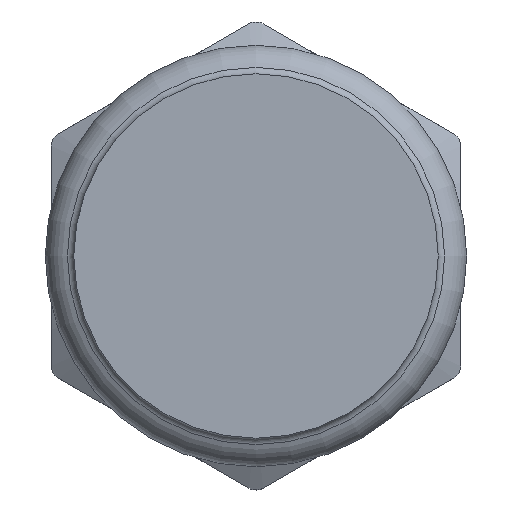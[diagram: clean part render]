
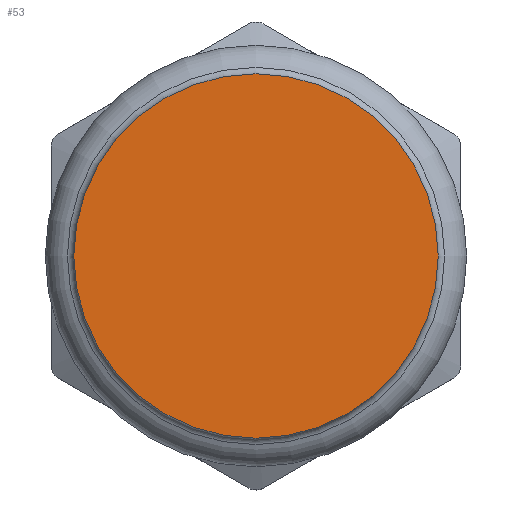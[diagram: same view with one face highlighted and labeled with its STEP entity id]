
A CAD part, front view. The second image highlights one B-rep face of the part: STEP entity #53.
In plain terms, the highlighted planar face has unit normal (0, -1, 0).
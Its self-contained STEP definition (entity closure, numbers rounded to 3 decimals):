
#53=ADVANCED_FACE('',(#78),#80,.F.);
#78=FACE_BOUND('',#79,.T.);
#79=EDGE_LOOP('',(#275));
#80=PLANE('',#81);
#81=AXIS2_PLACEMENT_3D('',#82,#83,#84);
#82=CARTESIAN_POINT('',(0.,0.,0.));
#83=DIRECTION('',(0.,1.,0.));
#84=DIRECTION('',(-1.,0.,0.));
#275=ORIENTED_EDGE('',*,*,#373,.F.);
#373=EDGE_CURVE('',#422,#422,#423,.T.);
#422=VERTEX_POINT('',#508);
#423=CIRCLE('',#509,19.15);
#508=CARTESIAN_POINT('',(0.,0.,19.15));
#509=AXIS2_PLACEMENT_3D('',#510,#511,#512);
#510=CARTESIAN_POINT('',(0.,0.,0.));
#511=DIRECTION('',(0.,1.,0.));
#512=DIRECTION('',(0.,0.,1.));
